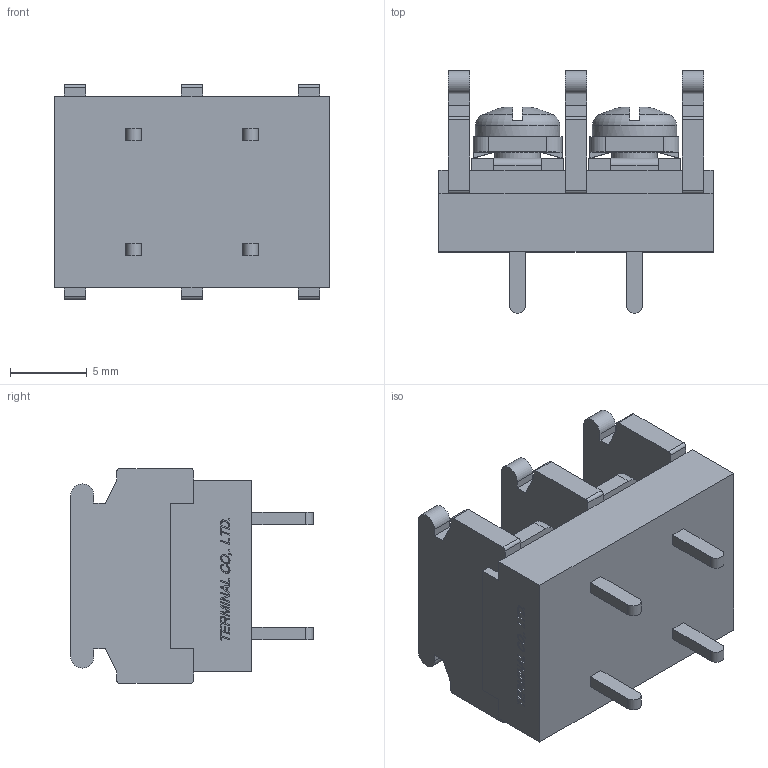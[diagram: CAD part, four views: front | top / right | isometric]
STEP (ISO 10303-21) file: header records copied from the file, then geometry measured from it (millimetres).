
FILE_DESCRIPTION(/* description */ ('Alibre Inc.'),/* implementation_level */ '2;1');
FILE_NAME(/* name */ 'export0',/* time_stamp */ '2015-10-23T20:15:23+09:00',/* author */ (''),/* organization */ (''),/* preprocessor_version */ 'ST-DEVELOPER v14',/* originating_system */ 'Alibre',/* authorisation */ '');
FILE_SCHEMA (('CONFIG_CONTROL_DESIGN'));
Length unit declared in the file: centimetre
Products named in the file (1): ID_1
Bounding box: 17.86 x 15.8 x 14 mm (x, y, z)
Volume: 1725.6 mm3; surface area: 1795 mm2
Topology: 1 solids, 1 shells, 636 faces, 1720 edges, 1136 vertices
Faces by surface type: plane 478, bspline 104, cylinder 38, cone 8, torus 4, sphere 4
Full cylindrical faces by diameter (mm): 3 x2, 5.5 x2
Entity records: 19221 total; most frequent: CARTESIAN_POINT 4481, ORIENTED_EDGE 3416, DIRECTION 2142, EDGE_CURVE 1708, VECTOR 1304, LINE 1304, VERTEX_POINT 1132, EDGE_LOOP 694
